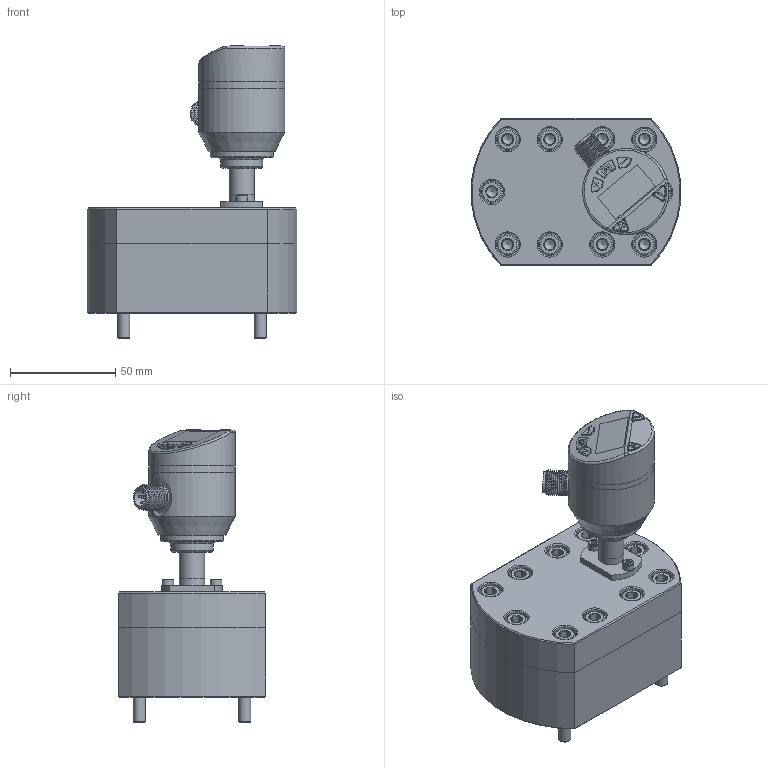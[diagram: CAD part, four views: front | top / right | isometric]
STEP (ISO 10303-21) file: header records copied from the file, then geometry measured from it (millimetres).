
FILE_DESCRIPTION( (''), '2;1');
FILE_NAME( 'QZKB_20L_M10.step', '2024-06-01T14:55:37+08:00', (''), (''), '', '', '');
FILE_SCHEMA (('AUTOMOTIVE_DESIGN { 1 0 10303 214 3 1 1 1 }'));
Length unit declared in the file: millimetre
Products named in the file (1): QZKB 20L_M10
Bounding box: 99.63 x 70 x 139.2 mm (x, y, z)
Volume: 315963.6 mm3; surface area: 99064.8 mm2
Topology: 26 solids, 26 shells, 1208 faces, 2806 edges, 1744 vertices
Faces by surface type: plane 586, cylinder 315, cone 186, torus 65, bspline 41, sphere 11, extrusion 4
Full cylindrical faces by diameter (mm): 1 x10, 2.5 x2, 2.7 x5, 2.874 x2, 3 x2, 3.1 x1, 3.5 x4, 4 x3, 5 x18, 5.5 x2, 5.795 x10, 6 x3, 6.5 x18, 7 x3, 8 x5, 8.4 x1, 9.7 x1, 9.8 x1, 10 x14, 10.1 x1, 11 x11, 11.6 x2, 12 x3, 12.5 x1, 13 x4, 15 x2, 16.5 x1, 20 x1, 23 x3, 26 x4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
Entity records: 46419 total; most frequent: CARTESIAN_POINT 19909, DIRECTION 5432, ORIENTED_EDGE 4856, EDGE_CURVE 2428, AXIS2_PLACEMENT_3D 2167, VERTEX_POINT 1663, EDGE_LOOP 1629, ADVANCED_FACE 1207
